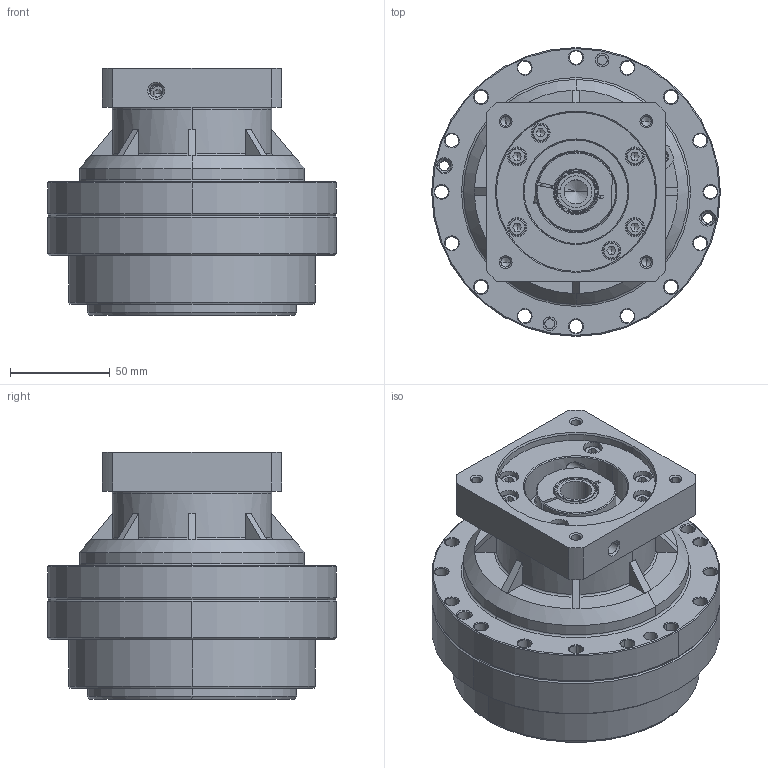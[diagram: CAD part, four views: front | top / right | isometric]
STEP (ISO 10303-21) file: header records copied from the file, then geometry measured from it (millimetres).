
FILE_DESCRIPTION (( 'STEP AP214' ), '1' );
FILE_NAME ('150BX-REA2-19-16-80100M6-bigi.STEP', '2022-11-13T15:37:19', ( '' ), ( '' ), 'SwSTEP 2.0', 'SolidWorks 2020', '' );
FILE_SCHEMA (( 'AUTOMOTIVE_DESIGN' ));
Length unit declared in the file: millimetre
Products named in the file (12): 150BX-161kÖáA19H26.stp; 蹟隊 GB_T 70.1 M5 x 16.stp; 150BX-REA2-19-16-80100M6-bigi; 坶踡ん22-45.stp; 150BX-OP-57.stp; 萇儂假蚾楊擘80-100.stp; 蹟隊 GB_T 70.1 M5 x 20.stp; 錨璃69^150BX-REA2-19-16-80100M6-bigi; 150BX输入法兰-161k-57口.stp; 粣創 61905-Z GB_T 276-94.stp; 150BX-REA2-19-16-80100M6-bigi.stp; 19-16.stp
Assembly tree (16 placements, depth 3):
  150BX-REA2-19-16-80100M6-bigi
    150BX-REA2-19-16-80100M6-bigi.stp
      150BX-OP-57.stp
      150BX输入法兰-161k-57口.stp
      150BX-161kÖáA19H26.stp
      粣創 61905-Z GB_T 276-94.stp
      萇儂假蚾楊擘80-100.stp
      坶踡ん22-45.stp
      蹟隊 GB_T 70.1 M5 x 16.stp
      蹟隊 GB_T 70.1 M5 x 20.stp  x6
      19-16.stp
    錨璃69^150BX-REA2-19-16-80100M6-bigi
Bounding box: 145 x 145 x 124.2 mm (x, y, z)
Volume: 1101210.3 mm3; surface area: 209120.5 mm2
Topology: 94 solids, 98 shells, 2720 faces, 7123 edges, 4612 vertices
Faces by surface type: plane 1360, bspline 572, cylinder 366, cone 313, torus 85, sphere 24
Entity records: 124015 total; most frequent: CARTESIAN_POINT 43956, ORIENTED_EDGE 13510, DIRECTION 10595, EDGE_CURVE 6755, VERTEX_POINT 4411, VECTOR 4351, LINE 4351, AXIS2_PLACEMENT_3D 3122
